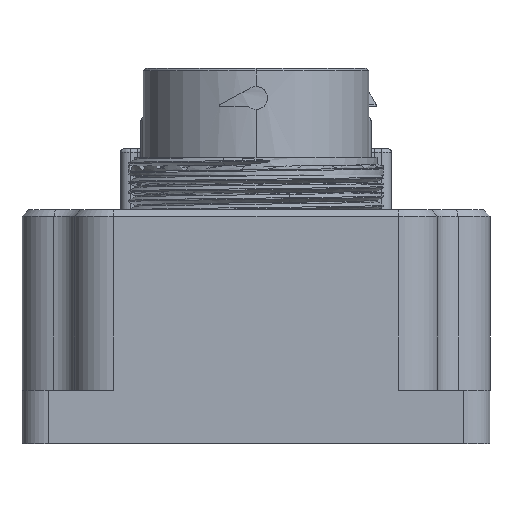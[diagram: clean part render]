
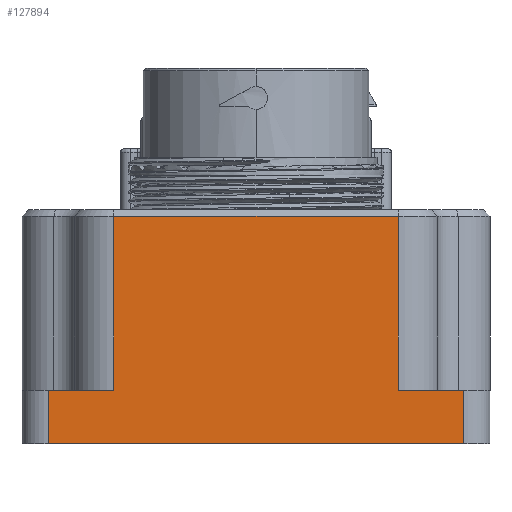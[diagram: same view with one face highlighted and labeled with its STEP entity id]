
A CAD part, left-side view. The second image highlights one B-rep face of the part: STEP entity #127894.
In plain terms, the highlighted planar face has unit normal (-1, 0, 0).
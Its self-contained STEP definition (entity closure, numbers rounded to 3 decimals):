
#268 = CARTESIAN_POINT ( 'NONE',  ( -63., 31.04, 0. ) ) ;
#1332 = LINE ( 'NONE', #268, #72252 ) ;
#1488 = VERTEX_POINT ( 'NONE', #166939 ) ;
#7874 = CARTESIAN_POINT ( 'NONE',  ( -63., -21.291, 8. ) ) ;
#13085 = DIRECTION ( 'NONE',  ( 0., -1., 0. ) ) ;
#13385 = ORIENTED_EDGE ( 'NONE', *, *, #54559, .F. ) ;
#13822 = EDGE_CURVE ( 'NONE', #142378, #98775, #28289, .T. ) ;
#18978 = ORIENTED_EDGE ( 'NONE', *, *, #95283, .T. ) ;
#20381 = CARTESIAN_POINT ( 'NONE',  ( -63., 31.04, 35. ) ) ;
#22163 = CARTESIAN_POINT ( 'NONE',  ( -63., 21.291, 8. ) ) ;
#22230 = VERTEX_POINT ( 'NONE', #22163 ) ;
#24796 = VERTEX_POINT ( 'NONE', #116590 ) ;
#28289 = LINE ( 'NONE', #32132, #165915 ) ;
#31084 = ORIENTED_EDGE ( 'NONE', *, *, #13822, .T. ) ;
#31589 = LINE ( 'NONE', #124666, #94067 ) ;
#32132 = CARTESIAN_POINT ( 'NONE',  ( -63., 31.04, 35. ) ) ;
#33768 = ORIENTED_EDGE ( 'NONE', *, *, #90407, .F. ) ;
#38037 = FACE_OUTER_BOUND ( 'NONE', #99707, .T. ) ;
#38279 = AXIS2_PLACEMENT_3D ( 'NONE', #20381, #127029, #47200 ) ;
#43397 = CARTESIAN_POINT ( 'NONE',  ( -63., -31.04, 35. ) ) ;
#47200 = DIRECTION ( 'NONE',  ( 0., 0., -1. ) ) ;
#48728 = ORIENTED_EDGE ( 'NONE', *, *, #135415, .T. ) ;
#54559 = EDGE_CURVE ( 'NONE', #140247, #97181, #134241, .T. ) ;
#56486 = DIRECTION ( 'NONE',  ( 0., -1., 0. ) ) ;
#57399 = DIRECTION ( 'NONE',  ( 0., 0., -1. ) ) ;
#64507 = VECTOR ( 'NONE', #56486, 1000. ) ;
#67748 = EDGE_CURVE ( 'NONE', #142378, #22230, #139578, .T. ) ;
#72252 = VECTOR ( 'NONE', #13085, 1000. ) ;
#72927 = LINE ( 'NONE', #131498, #139651 ) ;
#78063 = LINE ( 'NONE', #43397, #140619 ) ;
#79028 = CARTESIAN_POINT ( 'NONE',  ( -63., 31.04, 8. ) ) ;
#79636 = CARTESIAN_POINT ( 'NONE',  ( -63., -31.04, 0. ) ) ;
#82661 = VECTOR ( 'NONE', #87697, 1000. ) ;
#84375 = DIRECTION ( 'NONE',  ( 0., 1., 0. ) ) ;
#87697 = DIRECTION ( 'NONE',  ( 0., -1., 0. ) ) ;
#90407 = EDGE_CURVE ( 'NONE', #97181, #24796, #149361, .T. ) ;
#90736 = DIRECTION ( 'NONE',  ( 0., 0., -1. ) ) ;
#94067 = VECTOR ( 'NONE', #84375, 1000. ) ;
#95283 = EDGE_CURVE ( 'NONE', #1488, #22230, #72927, .T. ) ;
#97181 = VERTEX_POINT ( 'NONE', #151148 ) ;
#98775 = VERTEX_POINT ( 'NONE', #160521 ) ;
#99707 = EDGE_LOOP ( 'NONE', ( #13385, #112630, #18978, #161495, #31084, #48728, #111085, #33768 ) ) ;
#111085 = ORIENTED_EDGE ( 'NONE', *, *, #156953, .F. ) ;
#112630 = ORIENTED_EDGE ( 'NONE', *, *, #140302, .T. ) ;
#113602 = PLANE ( 'NONE',  #38279 ) ;
#116590 = CARTESIAN_POINT ( 'NONE',  ( -63., -31.04, 8. ) ) ;
#124091 = CARTESIAN_POINT ( 'NONE',  ( -63., -21.291, 34. ) ) ;
#124666 = CARTESIAN_POINT ( 'NONE',  ( -63., 21.291, 34. ) ) ;
#127029 = DIRECTION ( 'NONE',  ( 1., 0., 0. ) ) ;
#127894 = ADVANCED_FACE ( 'NONE', ( #38037 ), #113602, .F. ) ;
#130087 = VECTOR ( 'NONE', #90736, 1000. ) ;
#131498 = CARTESIAN_POINT ( 'NONE',  ( -63., 21.291, 258. ) ) ;
#134241 = LINE ( 'NONE', #144387, #130087 ) ;
#135415 = EDGE_CURVE ( 'NONE', #98775, #164414, #1332, .T. ) ;
#139578 = LINE ( 'NONE', #162416, #64507 ) ;
#139651 = VECTOR ( 'NONE', #144883, 1000. ) ;
#140247 = VERTEX_POINT ( 'NONE', #124091 ) ;
#140302 = EDGE_CURVE ( 'NONE', #140247, #1488, #31589, .T. ) ;
#140619 = VECTOR ( 'NONE', #57399, 1000. ) ;
#142378 = VERTEX_POINT ( 'NONE', #79028 ) ;
#144387 = CARTESIAN_POINT ( 'NONE',  ( -63., -21.291, 258. ) ) ;
#144883 = DIRECTION ( 'NONE',  ( 0., 0., -1. ) ) ;
#149361 = LINE ( 'NONE', #7874, #82661 ) ;
#151148 = CARTESIAN_POINT ( 'NONE',  ( -63., -21.291, 8. ) ) ;
#156953 = EDGE_CURVE ( 'NONE', #24796, #164414, #78063, .T. ) ;
#160521 = CARTESIAN_POINT ( 'NONE',  ( -63., 31.04, 0. ) ) ;
#161495 = ORIENTED_EDGE ( 'NONE', *, *, #67748, .F. ) ;
#162416 = CARTESIAN_POINT ( 'NONE',  ( -63., 31.04, 8. ) ) ;
#164414 = VERTEX_POINT ( 'NONE', #79636 ) ;
#165499 = DIRECTION ( 'NONE',  ( 0., 0., -1. ) ) ;
#165915 = VECTOR ( 'NONE', #165499, 1000. ) ;
#166939 = CARTESIAN_POINT ( 'NONE',  ( -63., 21.291, 34. ) ) ;
